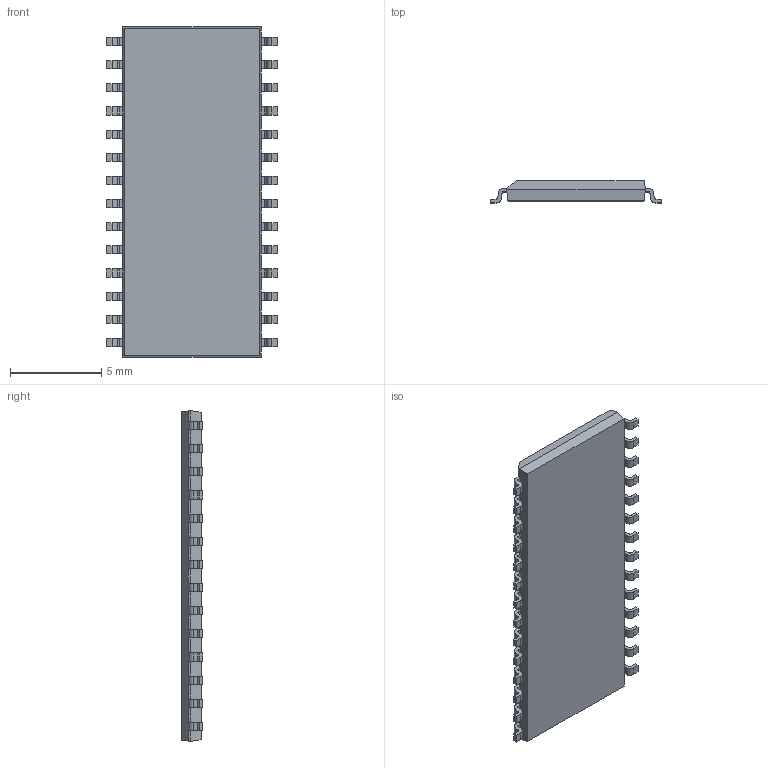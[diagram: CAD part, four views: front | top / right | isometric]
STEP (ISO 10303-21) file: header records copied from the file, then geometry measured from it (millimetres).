
FILE_DESCRIPTION (( 'STEP AP214' ), '1' );
FILE_NAME ('TSOP127P922X120-28_MS-025.BA.STEP', '2014-10-29T12:53:26', ( 'Tester2' ), ( '' ), 'SwSTEP 2.0', 'SolidWorks 2012', '' );
FILE_SCHEMA (( 'AUTOMOTIVE_DESIGN' ));
Length unit declared in the file: millimetre
Products named in the file (1): TSOP127P922X120-28_MS-025.BA
Bounding box: 9.42 x 1.2 x 18.14 mm (x, y, z)
Volume: 151.5 mm3; surface area: 369.6 mm2
Topology: 1 solids, 1 shells, 378 faces, 1121 edges, 746 vertices
Faces by surface type: plane 264, cylinder 114
Entity records: 16672 total; most frequent: CARTESIAN_POINT 2246, ORIENTED_EDGE 2242, DIRECTION 2107, EDGE_CURVE 1121, VECTOR 893, LINE 893, VERTEX_POINT 746, AXIS2_PLACEMENT_3D 607
